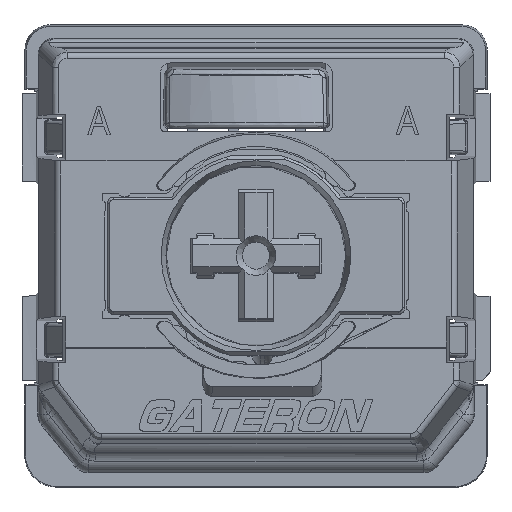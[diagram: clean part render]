
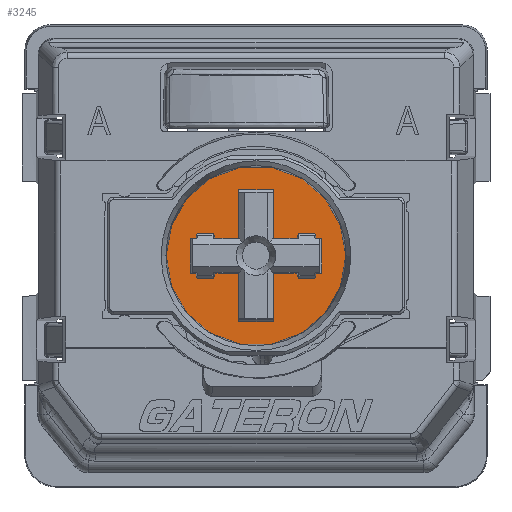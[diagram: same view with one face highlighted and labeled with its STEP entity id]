
A CAD part, top view. The second image highlights one B-rep face of the part: STEP entity #3245.
In plain terms, the highlighted planar face has unit normal (0, 0, 1).
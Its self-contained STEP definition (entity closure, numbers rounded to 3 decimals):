
#1174=CIRCLE('',#19507,2.834);
#3245=ADVANCED_FACE('',(#4009,#4010),#3879,.F.);
#3879=PLANE('',#19521);
#4009=FACE_BOUND('',#4923,.T.);
#4010=FACE_BOUND('',#4924,.T.);
#4923=EDGE_LOOP('',(#9813));
#4924=EDGE_LOOP('',(#9814,#9815,#9816,#9817,#9818,#9819,#9820,#9821,#9822,
#9823,#9824,#9825,#9826,#9827,#9828,#9829,#9830,#9831,#9832,#9833,#9834,
#9835,#9836,#9837,#9838,#9839,#9840,#9841));
#9813=ORIENTED_EDGE('',*,*,#14479,.F.);
#9814=ORIENTED_EDGE('',*,*,#14508,.T.);
#9815=ORIENTED_EDGE('',*,*,#14480,.T.);
#9816=ORIENTED_EDGE('',*,*,#14509,.T.);
#9817=ORIENTED_EDGE('',*,*,#14491,.T.);
#9818=ORIENTED_EDGE('',*,*,#14477,.T.);
#9819=ORIENTED_EDGE('',*,*,#14501,.T.);
#9820=ORIENTED_EDGE('',*,*,#14472,.T.);
#9821=ORIENTED_EDGE('',*,*,#14470,.T.);
#9822=ORIENTED_EDGE('',*,*,#14503,.T.);
#9823=ORIENTED_EDGE('',*,*,#14465,.T.);
#9824=ORIENTED_EDGE('',*,*,#14463,.T.);
#9825=ORIENTED_EDGE('',*,*,#14507,.T.);
#9826=ORIENTED_EDGE('',*,*,#14458,.T.);
#9827=ORIENTED_EDGE('',*,*,#14495,.T.);
#9828=ORIENTED_EDGE('',*,*,#14510,.T.);
#9829=ORIENTED_EDGE('',*,*,#14486,.T.);
#9830=ORIENTED_EDGE('',*,*,#14511,.T.);
#9831=ORIENTED_EDGE('',*,*,#14493,.T.);
#9832=ORIENTED_EDGE('',*,*,#14455,.T.);
#9833=ORIENTED_EDGE('',*,*,#14505,.T.);
#9834=ORIENTED_EDGE('',*,*,#14450,.T.);
#9835=ORIENTED_EDGE('',*,*,#14448,.T.);
#9836=ORIENTED_EDGE('',*,*,#14499,.T.);
#9837=ORIENTED_EDGE('',*,*,#14443,.T.);
#9838=ORIENTED_EDGE('',*,*,#14441,.T.);
#9839=ORIENTED_EDGE('',*,*,#14497,.T.);
#9840=ORIENTED_EDGE('',*,*,#14436,.T.);
#9841=ORIENTED_EDGE('',*,*,#14489,.T.);
#11905=VERTEX_POINT('',#31917);
#11906=VERTEX_POINT('',#31919);
#11907=VERTEX_POINT('',#31923);
#11909=VERTEX_POINT('',#31927);
#11911=VERTEX_POINT('',#31933);
#11912=VERTEX_POINT('',#31937);
#11914=VERTEX_POINT('',#31941);
#11916=VERTEX_POINT('',#31947);
#11917=VERTEX_POINT('',#31951);
#11919=VERTEX_POINT('',#31955);
#11921=VERTEX_POINT('',#31961);
#11922=VERTEX_POINT('',#31963);
#11923=VERTEX_POINT('',#31967);
#11925=VERTEX_POINT('',#31971);
#11927=VERTEX_POINT('',#31977);
#11928=VERTEX_POINT('',#31981);
#11930=VERTEX_POINT('',#31985);
#11932=VERTEX_POINT('',#31991);
#11933=VERTEX_POINT('',#31995);
#11935=VERTEX_POINT('',#31999);
#11937=VERTEX_POINT('',#32006);
#11938=VERTEX_POINT('',#32009);
#11939=VERTEX_POINT('',#32010);
#11944=VERTEX_POINT('',#32021);
#11945=VERTEX_POINT('',#32023);
#11946=VERTEX_POINT('',#32027);
#11947=VERTEX_POINT('',#32031);
#11948=VERTEX_POINT('',#32035);
#11949=VERTEX_POINT('',#32039);
#14436=EDGE_CURVE('',#11906,#11905,#16266,.T.);
#14441=EDGE_CURVE('',#11907,#11909,#16271,.T.);
#14443=EDGE_CURVE('',#11911,#11907,#16273,.T.);
#14448=EDGE_CURVE('',#11912,#11914,#16278,.T.);
#14450=EDGE_CURVE('',#11916,#11912,#16280,.T.);
#14455=EDGE_CURVE('',#11917,#11919,#16285,.T.);
#14458=EDGE_CURVE('',#11922,#11921,#16288,.T.);
#14463=EDGE_CURVE('',#11923,#11925,#16293,.T.);
#14465=EDGE_CURVE('',#11927,#11923,#16295,.T.);
#14470=EDGE_CURVE('',#11928,#11930,#16300,.T.);
#14472=EDGE_CURVE('',#11932,#11928,#16302,.T.);
#14477=EDGE_CURVE('',#11933,#11935,#16307,.T.);
#14479=EDGE_CURVE('',#11937,#11937,#1174,.T.);
#14480=EDGE_CURVE('',#11938,#11939,#16308,.T.);
#14486=EDGE_CURVE('',#11945,#11944,#16314,.T.);
#14489=EDGE_CURVE('',#11905,#11946,#16317,.T.);
#14491=EDGE_CURVE('',#11947,#11933,#16319,.T.);
#14493=EDGE_CURVE('',#11948,#11917,#16321,.T.);
#14495=EDGE_CURVE('',#11921,#11949,#16323,.T.);
#14497=EDGE_CURVE('',#11909,#11906,#16325,.T.);
#14499=EDGE_CURVE('',#11914,#11911,#16327,.T.);
#14501=EDGE_CURVE('',#11935,#11932,#16329,.T.);
#14503=EDGE_CURVE('',#11930,#11927,#16331,.T.);
#14505=EDGE_CURVE('',#11919,#11916,#16333,.T.);
#14507=EDGE_CURVE('',#11925,#11922,#16335,.T.);
#14508=EDGE_CURVE('',#11946,#11938,#16336,.T.);
#14509=EDGE_CURVE('',#11939,#11947,#16337,.T.);
#14510=EDGE_CURVE('',#11949,#11945,#16338,.T.);
#14511=EDGE_CURVE('',#11944,#11948,#16339,.T.);
#16266=LINE('',#31918,#18062);
#16271=LINE('',#31928,#18067);
#16273=LINE('',#31932,#18069);
#16278=LINE('',#31942,#18074);
#16280=LINE('',#31946,#18076);
#16285=LINE('',#31956,#18081);
#16288=LINE('',#31962,#18084);
#16293=LINE('',#31972,#18089);
#16295=LINE('',#31976,#18091);
#16300=LINE('',#31986,#18096);
#16302=LINE('',#31990,#18098);
#16307=LINE('',#32000,#18103);
#16308=LINE('',#32008,#18104);
#16314=LINE('',#32022,#18110);
#16317=LINE('',#32028,#18113);
#16319=LINE('',#32032,#18115);
#16321=LINE('',#32036,#18117);
#16323=LINE('',#32040,#18119);
#16325=LINE('',#32043,#18121);
#16327=LINE('',#32046,#18123);
#16329=LINE('',#32049,#18125);
#16331=LINE('',#32052,#18127);
#16333=LINE('',#32055,#18129);
#16335=LINE('',#32058,#18131);
#16336=LINE('',#32060,#18132);
#16337=LINE('',#32061,#18133);
#16338=LINE('',#32062,#18134);
#16339=LINE('',#32063,#18135);
#18062=VECTOR('',#23771,1.);
#18067=VECTOR('',#23778,1.);
#18069=VECTOR('',#23782,1.);
#18074=VECTOR('',#23789,1.);
#18076=VECTOR('',#23793,1.);
#18081=VECTOR('',#23800,1.);
#18084=VECTOR('',#23805,1.);
#18089=VECTOR('',#23812,1.);
#18091=VECTOR('',#23816,1.);
#18096=VECTOR('',#23823,1.);
#18098=VECTOR('',#23827,1.);
#18103=VECTOR('',#23834,1.);
#18104=VECTOR('',#23845,1.);
#18110=VECTOR('',#23853,1.);
#18113=VECTOR('',#23858,1.);
#18115=VECTOR('',#23862,1.);
#18117=VECTOR('',#23866,1.);
#18119=VECTOR('',#23870,1.);
#18121=VECTOR('',#23874,1.);
#18123=VECTOR('',#23878,1.);
#18125=VECTOR('',#23882,1.);
#18127=VECTOR('',#23886,1.);
#18129=VECTOR('',#23890,1.);
#18131=VECTOR('',#23894,1.);
#18132=VECTOR('',#23897,1.);
#18133=VECTOR('',#23898,1.);
#18134=VECTOR('',#23899,1.);
#18135=VECTOR('',#23900,1.);
#19507=AXIS2_PLACEMENT_3D('',#32005,#23841,#23842);
#19521=AXIS2_PLACEMENT_3D('',#32064,#23901,#23902);
#23771=DIRECTION('',(-0.259,0.966,0.));
#23778=DIRECTION('',(-0.259,-0.966,0.));
#23782=DIRECTION('',(-1.,0.,0.));
#23789=DIRECTION('',(1.,0.,0.));
#23793=DIRECTION('',(0.259,-0.966,0.));
#23800=DIRECTION('',(0.259,0.966,0.));
#23805=DIRECTION('',(0.259,-0.966,0.));
#23812=DIRECTION('',(0.259,0.966,0.));
#23816=DIRECTION('',(1.,0.,0.));
#23823=DIRECTION('',(-1.,0.,0.));
#23827=DIRECTION('',(-0.259,0.966,0.));
#23834=DIRECTION('',(-0.259,-0.966,0.));
#23841=DIRECTION('',(0.,0.,-1.));
#23842=DIRECTION('',(-1.,0.,0.));
#23845=DIRECTION('',(-1.,0.,0.));
#23853=DIRECTION('',(1.,0.,0.));
#23858=DIRECTION('',(-1.,0.,0.));
#23862=DIRECTION('',(-1.,0.,0.));
#23866=DIRECTION('',(1.,0.,0.));
#23870=DIRECTION('',(1.,0.,0.));
#23874=DIRECTION('',(-1.,0.,0.));
#23878=DIRECTION('',(0.,-1.,0.));
#23882=DIRECTION('',(-1.,0.,0.));
#23886=DIRECTION('',(0.,1.,0.));
#23890=DIRECTION('',(1.,0.,0.));
#23894=DIRECTION('',(1.,0.,0.));
#23897=DIRECTION('',(0.,-1.,0.));
#23898=DIRECTION('',(0.,1.,0.));
#23899=DIRECTION('',(0.,1.,0.));
#23900=DIRECTION('',(0.,-1.,0.));
#23901=DIRECTION('',(0.,0.,-1.));
#23902=DIRECTION('',(0.,-1.,0.));
#31917=CARTESIAN_POINT('',(151.298,-49.752,3.55));
#31918=CARTESIAN_POINT('',(151.073,-48.912,3.55));
#31919=CARTESIAN_POINT('',(151.34,-49.91,3.55));
#31923=CARTESIAN_POINT('',(151.902,-49.752,3.55));
#31927=CARTESIAN_POINT('',(151.86,-49.91,3.55));
#31928=CARTESIAN_POINT('',(151.913,-49.713,3.55));
#31932=CARTESIAN_POINT('',(149.999,-49.752,3.55));
#31933=CARTESIAN_POINT('',(152.08,-49.752,3.55));
#31937=CARTESIAN_POINT('',(151.902,-48.648,3.55));
#31941=CARTESIAN_POINT('',(152.08,-48.648,3.55));
#31942=CARTESIAN_POINT('',(149.999,-48.648,3.55));
#31946=CARTESIAN_POINT('',(151.913,-48.687,3.55));
#31947=CARTESIAN_POINT('',(151.86,-48.49,3.55));
#31951=CARTESIAN_POINT('',(151.298,-48.648,3.55));
#31955=CARTESIAN_POINT('',(151.34,-48.49,3.55));
#31956=CARTESIAN_POINT('',(151.073,-49.488,3.55));
#31961=CARTESIAN_POINT('',(148.702,-48.648,3.55));
#31962=CARTESIAN_POINT('',(148.927,-49.487,3.55));
#31963=CARTESIAN_POINT('',(148.66,-48.49,3.55));
#31967=CARTESIAN_POINT('',(148.098,-48.648,3.55));
#31971=CARTESIAN_POINT('',(148.14,-48.49,3.55));
#31972=CARTESIAN_POINT('',(148.087,-48.688,3.55));
#31976=CARTESIAN_POINT('',(149.999,-48.648,3.55));
#31977=CARTESIAN_POINT('',(147.92,-48.648,3.55));
#31981=CARTESIAN_POINT('',(148.098,-49.752,3.55));
#31985=CARTESIAN_POINT('',(147.92,-49.752,3.55));
#31986=CARTESIAN_POINT('',(149.999,-49.752,3.55));
#31990=CARTESIAN_POINT('',(148.087,-49.712,3.55));
#31991=CARTESIAN_POINT('',(148.14,-49.91,3.55));
#31995=CARTESIAN_POINT('',(148.702,-49.752,3.55));
#31999=CARTESIAN_POINT('',(148.66,-49.91,3.55));
#32000=CARTESIAN_POINT('',(148.927,-48.913,3.55));
#32005=CARTESIAN_POINT('',(150.,-49.2,3.55));
#32006=CARTESIAN_POINT('',(147.166,-49.2,3.55));
#32008=CARTESIAN_POINT('',(149.999,-51.28,3.55));
#32009=CARTESIAN_POINT('',(150.54,-51.28,3.55));
#32010=CARTESIAN_POINT('',(149.46,-51.28,3.55));
#32021=CARTESIAN_POINT('',(150.54,-47.12,3.55));
#32022=CARTESIAN_POINT('',(149.999,-47.12,3.55));
#32023=CARTESIAN_POINT('',(149.46,-47.12,3.55));
#32027=CARTESIAN_POINT('',(150.54,-49.752,3.55));
#32028=CARTESIAN_POINT('',(149.999,-49.752,3.55));
#32031=CARTESIAN_POINT('',(149.46,-49.752,3.55));
#32032=CARTESIAN_POINT('',(149.999,-49.752,3.55));
#32035=CARTESIAN_POINT('',(150.54,-48.648,3.55));
#32036=CARTESIAN_POINT('',(149.999,-48.648,3.55));
#32039=CARTESIAN_POINT('',(149.46,-48.648,3.55));
#32040=CARTESIAN_POINT('',(149.999,-48.648,3.55));
#32043=CARTESIAN_POINT('',(149.999,-49.91,3.55));
#32046=CARTESIAN_POINT('',(152.08,-49.2,3.55));
#32049=CARTESIAN_POINT('',(149.999,-49.91,3.55));
#32052=CARTESIAN_POINT('',(147.92,-49.2,3.55));
#32055=CARTESIAN_POINT('',(149.999,-48.49,3.55));
#32058=CARTESIAN_POINT('',(149.999,-48.49,3.55));
#32060=CARTESIAN_POINT('',(150.54,-49.2,3.55));
#32061=CARTESIAN_POINT('',(149.46,-51.2,3.55));
#32062=CARTESIAN_POINT('',(149.46,-49.2,3.55));
#32063=CARTESIAN_POINT('',(150.54,-47.2,3.55));
#32064=CARTESIAN_POINT('',(149.999,-49.2,3.55));
